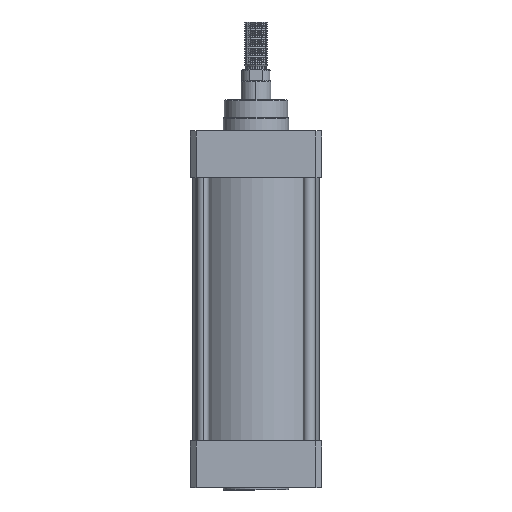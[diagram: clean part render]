
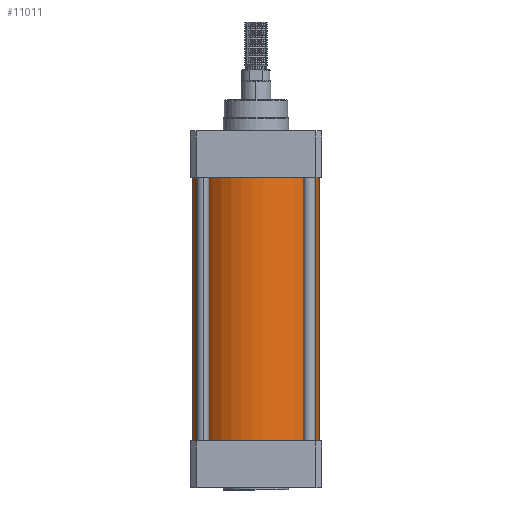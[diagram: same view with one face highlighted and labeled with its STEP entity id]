
A CAD part, front view. The second image highlights one B-rep face of the part: STEP entity #11011.
In plain terms, the highlighted cylindrical face has radius 53 mm (diameter 106 mm), a partial arc.
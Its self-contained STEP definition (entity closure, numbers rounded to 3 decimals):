
#235 = VERTEX_POINT ( 'NONE', #18355 ) ;
#698 = EDGE_CURVE ( 'NONE', #3543, #770, #18535, .T. ) ;
#770 = VERTEX_POINT ( 'NONE', #18531 ) ;
#2513 = EDGE_CURVE ( 'NONE', #3831, #235, #18619, .T. ) ;
#3543 = VERTEX_POINT ( 'NONE', #18608 ) ;
#3831 = VERTEX_POINT ( 'NONE', #18601 ) ;
#10064 = EDGE_CURVE ( 'NONE', #770, #235, #19043, .T. ) ;
#10946 = EDGE_CURVE ( 'NONE', #3543, #3831, #20436, .T. ) ;
#10997 = ORIENTED_EDGE ( 'NONE', *, *, #10064, .T. ) ;
#10998 = ORIENTED_EDGE ( 'NONE', *, *, #698, .T. ) ;
#11000 = ORIENTED_EDGE ( 'NONE', *, *, #2513, .F. ) ;
#11002 = ORIENTED_EDGE ( 'NONE', *, *, #10946, .F. ) ;
#11005 = EDGE_LOOP ( 'NONE', ( #11000, #11002, #10998, #10997 ) ) ;
#11011 = ADVANCED_FACE ( 'NONE', ( #20561 ), #20560, .T. ) ;
#18355 = CARTESIAN_POINT ( 'NONE',  ( 53., 0., 0. ) ) ;
#18531 = CARTESIAN_POINT ( 'NONE',  ( -53., 0., 0. ) ) ;
#18532 = DIRECTION ( 'NONE',  ( 0., 0., -1. ) ) ;
#18533 = VECTOR ( 'NONE', #18532, 1000. ) ;
#18534 = CARTESIAN_POINT ( 'NONE',  ( -53., 0., 220. ) ) ;
#18535 = LINE ( 'NONE', #18534, #18533 ) ;
#18601 = CARTESIAN_POINT ( 'NONE',  ( 53., 0., 220. ) ) ;
#18608 = CARTESIAN_POINT ( 'NONE',  ( -53., 0., 220. ) ) ;
#18616 = DIRECTION ( 'NONE',  ( 0., 0., -1. ) ) ;
#18617 = VECTOR ( 'NONE', #18616, 1000. ) ;
#18618 = CARTESIAN_POINT ( 'NONE',  ( 53., 0., 220. ) ) ;
#18619 = LINE ( 'NONE', #18618, #18617 ) ;
#19039 = DIRECTION ( 'NONE',  ( 1., 0., 0. ) ) ;
#19040 = DIRECTION ( 'NONE',  ( 0., 0., 1. ) ) ;
#19041 = CARTESIAN_POINT ( 'NONE',  ( 0., 0., 0. ) ) ;
#19042 = AXIS2_PLACEMENT_3D ( 'NONE', #19041, #19040, #19039 ) ;
#19043 = CIRCLE ( 'NONE', #19042, 53. ) ;
#20432 = DIRECTION ( 'NONE',  ( 1., 0., 0. ) ) ;
#20433 = DIRECTION ( 'NONE',  ( 0., 0., 1. ) ) ;
#20434 = CARTESIAN_POINT ( 'NONE',  ( 0., 0., 220. ) ) ;
#20435 = AXIS2_PLACEMENT_3D ( 'NONE', #20434, #20433, #20432 ) ;
#20436 = CIRCLE ( 'NONE', #20435, 53. ) ;
#20554 = DIRECTION ( 'NONE',  ( -1., 0., 0. ) ) ;
#20555 = DIRECTION ( 'NONE',  ( 0., 0., -1. ) ) ;
#20556 = CARTESIAN_POINT ( 'NONE',  ( 0., 0., 220. ) ) ;
#20557 = AXIS2_PLACEMENT_3D ( 'NONE', #20556, #20555, #20554 ) ;
#20560 = CYLINDRICAL_SURFACE ( 'NONE', #20557, 53. ) ;
#20561 = FACE_OUTER_BOUND ( 'NONE', #11005, .T. ) ;
